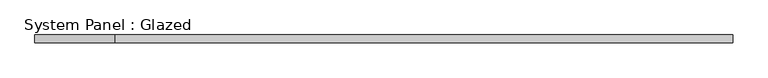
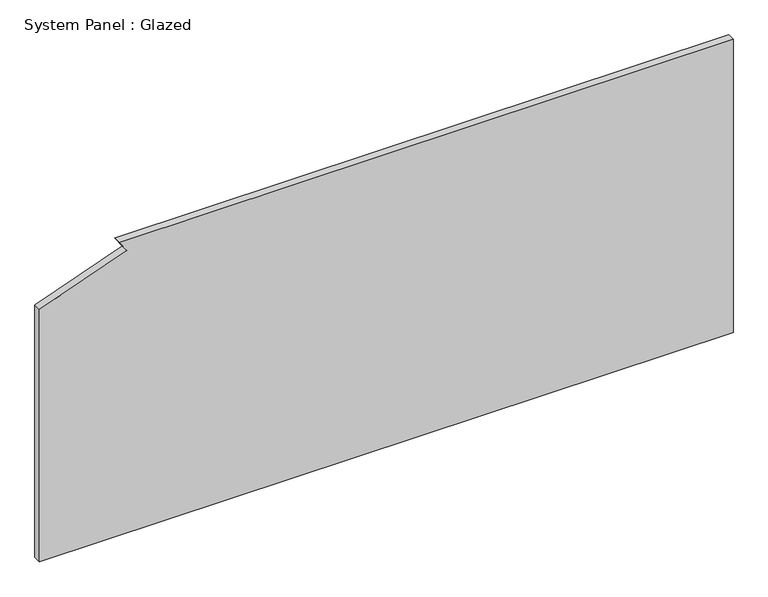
"""IFC4 building model written with IfcOpenShell, lengths in millimetres: plate geometry, System Panel : Glazed."""

from ifc_helpers import new_model, si_unit, frame, origin, place, context, project, spatial, polyline, outline, extrude, source, transform, mapped, element, save


def system_panel_glazed_f960aef1(model_context):
    return source(origin(), model_context, "Body", "SweptSolid", [
        extrude(outline(polyline([(0.0, -1122.380364), (0.0, 1122.380364), (1003.3, 1122.380364), (1003.3, -864.366128), (966.8388835, -839.7325761), (864.7643347, -1122.380364), (0.0, -1122.380364)])), frame((0.0, 19.05, 0.0), z_axis=(0.0, 1.0, 0.0), x_axis=(0.0, 0.0, 1.0)), (0.0, 0.0, 1.0), 25.4),
    ])


if __name__ == "__main__":
    model = new_model("IFC4")
    model_context = context("Model", 3, world=origin())
    ifc_project = project(units=[si_unit("LENGTHUNIT", "METRE", prefix="MILLI")], contexts=[model_context])
    site = spatial("IfcSite", under=ifc_project)
    building = spatial("IfcBuilding", under=site)
    placement = place(None, origin())
    system_panel_glazed_shape = system_panel_glazed_f960aef1(model_context)
    element("IfcPlate", 1, ObjectType="System Panel : Glazed", at=placement, inside=building, context=model_context, shape_type="MappedRepresentation", body=[
        mapped(system_panel_glazed_shape, transform((0.0, 0.0, 0.0), x_axis=(1.0, 0.0, 0.0), y_axis=(0.0, 1.0, 0.0), z_axis=(0.0, 0.0, 1.0))),
    ])
    save(model, "model.ifc")
